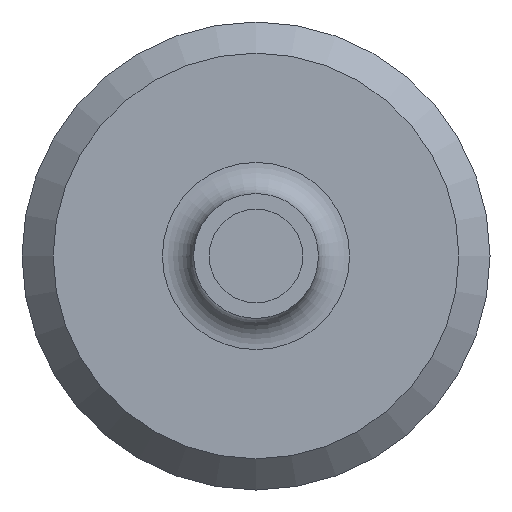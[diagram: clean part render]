
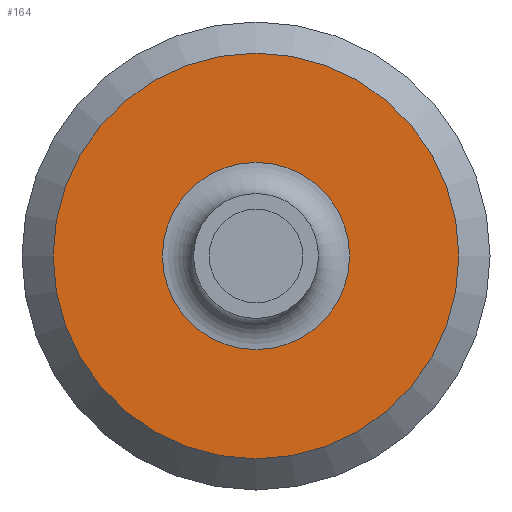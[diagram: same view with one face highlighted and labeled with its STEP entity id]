
A CAD part, front view. The second image highlights one B-rep face of the part: STEP entity #164.
In plain terms, the highlighted planar face has unit normal (0, -1, 0).
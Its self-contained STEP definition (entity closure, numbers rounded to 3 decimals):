
#30=FACE_BOUND('',#48,.T.);
#32=PLANE('',#200);
#37=FACE_OUTER_BOUND('',#47,.T.);
#47=EDGE_LOOP('',(#123));
#48=EDGE_LOOP('',(#124,#125));
#58=CIRCLE('',#194,6.);
#63=CIRCLE('',#199,6.);
#64=CIRCLE('',#201,13.);
#76=VERTEX_POINT('',#286);
#77=VERTEX_POINT('',#287);
#81=VERTEX_POINT('',#298);
#93=EDGE_CURVE('',#76,#77,#58,.T.);
#98=EDGE_CURVE('',#77,#76,#63,.T.);
#99=EDGE_CURVE('',#81,#81,#64,.T.);
#123=ORIENTED_EDGE('',*,*,#99,.F.);
#124=ORIENTED_EDGE('',*,*,#93,.F.);
#125=ORIENTED_EDGE('',*,*,#98,.F.);
#164=ADVANCED_FACE('',(#37,#30),#32,.T.);
#194=AXIS2_PLACEMENT_3D('',#288,#225,#226);
#199=AXIS2_PLACEMENT_3D('',#296,#235,#236);
#200=AXIS2_PLACEMENT_3D('',#297,#237,#238);
#201=AXIS2_PLACEMENT_3D('',#299,#239,#240);
#225=DIRECTION('center_axis',(0.,-1.,0.));
#226=DIRECTION('ref_axis',(-1.,0.,0.));
#235=DIRECTION('center_axis',(0.,-1.,0.));
#236=DIRECTION('ref_axis',(-1.,0.,0.));
#237=DIRECTION('center_axis',(0.,-1.,0.));
#238=DIRECTION('ref_axis',(0.,0.,-1.));
#239=DIRECTION('center_axis',(0.,1.,0.));
#240=DIRECTION('ref_axis',(-1.,0.,0.));
#286=CARTESIAN_POINT('',(6.,37.,0.));
#287=CARTESIAN_POINT('',(0.,37.,6.));
#288=CARTESIAN_POINT('Origin',(0.,37.,0.));
#296=CARTESIAN_POINT('Origin',(0.,37.,0.));
#297=CARTESIAN_POINT('Origin',(4.,37.,0.));
#298=CARTESIAN_POINT('',(13.,37.,0.));
#299=CARTESIAN_POINT('Origin',(0.,37.,0.));
